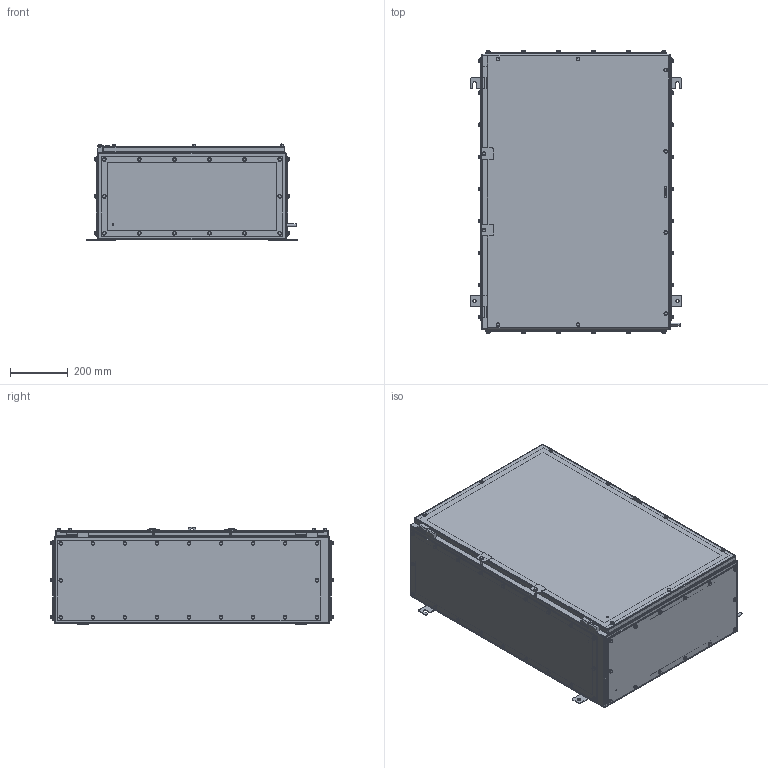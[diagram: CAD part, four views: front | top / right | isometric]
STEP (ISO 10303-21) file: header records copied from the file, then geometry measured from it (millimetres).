
FILE_DESCRIPTION (( 'STEP AP203' ), '1' );
FILE_NAME ('SX7_300_4GP.STEP', '2021-05-20T08:52:46', ( '' ), ( '' ), 'SwSTEP 2.0', 'SolidWorks 2020', '' );
FILE_SCHEMA (( 'CONFIG_CONTROL_DESIGN' ));
Length unit declared in the file: millimetre
Products named in the file (13): hex screw gradec_bsi_BS EN 24018 - M6 x 20-WN; SX7-300 side Gland plate; plain washer form a_bsi_Bright washer BS 4320 - M6 (Form A); SX7 Door; hex screw gradec_iso_ISO 4018 - M6 x 30-WN; SX7-300 side Gasket; SX7-300 Base Gasket; hex screw gradec_bsi_ISO 4018 - M6 x 12-WN; SX7 Door Gasket; SX7_300_4GP Body; SX7-300 Base Gland plate; hex screw gradec_bsi_BS EN 24018 - M6 x 16-WN; SX7_300_4GP
Assembly tree (167 placements, depth 2):
  SX7_300_4GP
    SX7_300_4GP Body
    SX7-300 Base Gasket  x2
    SX7-300 side Gasket  x2
    SX7-300 side Gland plate  x2
    SX7-300 Base Gland plate  x2
    hex screw gradec_bsi_BS EN 24018 - M6 x 16-WN  x4
    plain washer form a_bsi_Bright washer BS 4320 - M6 (Form A)  x78
    hex screw gradec_bsi_ISO 4018 - M6 x 12-WN  x64
    SX7 Door
    hex screw gradec_bsi_BS EN 24018 - M6 x 20-WN  x8
    hex screw gradec_iso_ISO 4018 - M6 x 30-WN  x2
    SX7 Door Gasket
Bounding box: 730 x 973.95 x 336 mm (x, y, z)
Volume: 6907104.4 mm3; surface area: 5717626 mm2
Topology: 167 solids, 167 shells, 3874 faces, 8406 edges, 5080 vertices
Faces by surface type: plane 1742, cylinder 1432, cone 636, sphere 56, torus 8
Entity records: 41729 total; most frequent: DIRECTION 7006, CARTESIAN_POINT 6208, ORIENTED_EDGE 5580, AXIS2_PLACEMENT_3D 2854, EDGE_CURVE 2790, VERTEX_POINT 1768, EDGE_LOOP 1614, CIRCLE 1444
